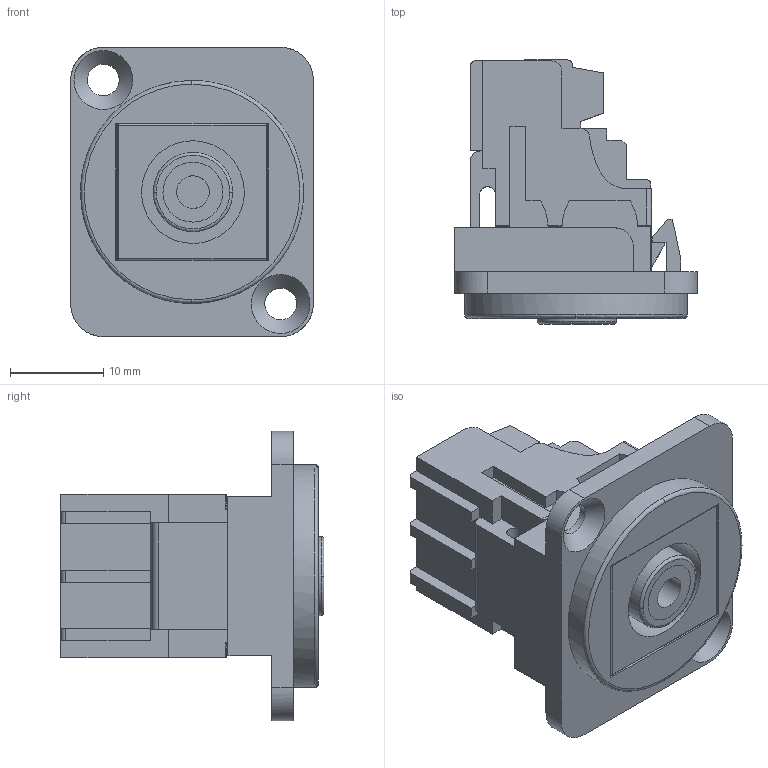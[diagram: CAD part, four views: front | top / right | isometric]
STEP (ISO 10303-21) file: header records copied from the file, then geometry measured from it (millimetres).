
FILE_DESCRIPTION(('FreeCAD Model'),'2;1');
FILE_NAME('Open CASCADE Shape Model','2026-05-13T14:29:42',(''),(''), 'Open CASCADE STEP processor 7.8','FreeCAD','Unknown');
FILE_SCHEMA(('AUTOMOTIVE_DESIGN { 1 0 10303 214 1 1 1 1 }'));
Length unit declared in the file: millimetre
Products named in the file (3): PMNST_RCAXX_BK; 3013BUSXLRBK; 310RCAxx2STBK
Assembly tree (2 placements, depth 2):
  PMNST_RCAXX_BK
    3013BUSXLRBK
    310RCAxx2STBK
Bounding box: 26 x 28.29 x 31 mm (x, y, z)
Volume: 8134.8 mm3; surface area: 6502.7 mm2
Topology: 2 solids, 2 shells, 229 faces, 618 edges, 399 vertices
Faces by surface type: bspline 229
Entity records: 11155 total; most frequent: CARTESIAN_POINT 7355, ORIENTED_EDGE 1236, EDGE_CURVE 618, B_SPLINE_CURVE_WITH_KNOTS 618, VERTEX_POINT 399, FACE_BOUND 241, EDGE_LOOP 241, ADVANCED_FACE 229
